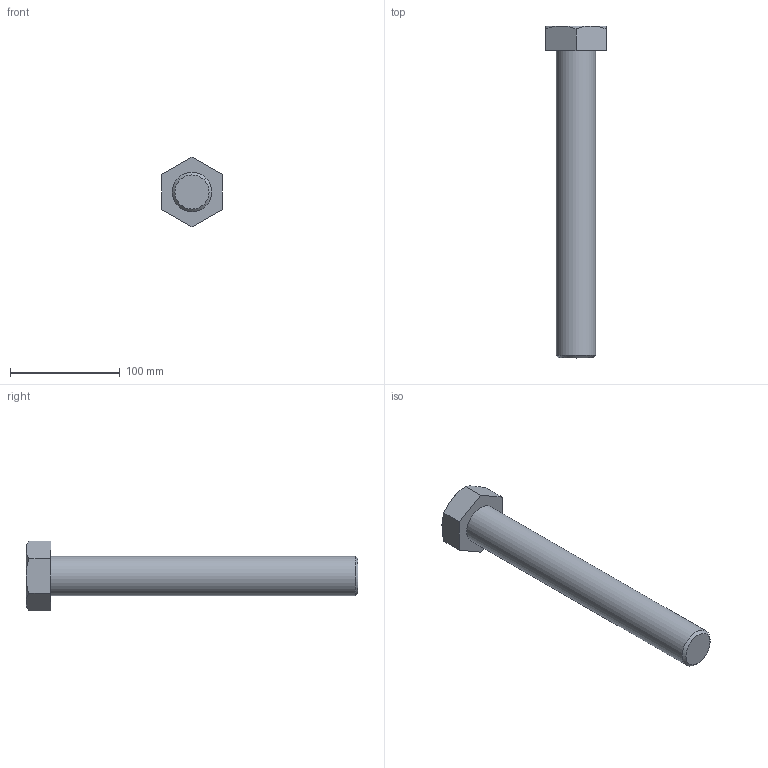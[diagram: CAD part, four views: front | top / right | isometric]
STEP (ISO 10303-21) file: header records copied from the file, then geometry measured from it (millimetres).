
FILE_DESCRIPTION(/* description */ (''),/* implementation_level */ '2;1');
FILE_NAME(/* name */ 'C:\Users\unitec\Documents\Inventor\各種小物\JIS\JIS B 1180 六角ボルト 等級C\hbc36\M36x280.stp',/* time_stamp */ '2015-02-13T14:56:36+09:00',/* author */ ('unitec'),/* organization */ (''),/* preprocessor_version */ 'ST-DEVELOPER v15.2',/* originating_system */ 'Autodesk Inventor 2014',/* authorisation */ '');
FILE_SCHEMA (('AUTOMOTIVE_DESIGN { 1 0 10303 214 3 1 1 }'));
Length unit declared in the file: millimetre
Products named in the file (1): M36x280
Bounding box: 55 x 302.5 x 63.51 mm (x, y, z)
Volume: 343444.5 mm3; surface area: 40900.6 mm2
Topology: 1 solids, 1 shells, 17 faces, 35 edges, 21 vertices
Faces by surface type: plane 9, cone 7, cylinder 1
Full cylindrical faces by diameter (mm): 36 x1
Entity records: 441 total; most frequent: CARTESIAN_POINT 96, ORIENTED_EDGE 66, DIRECTION 66, EDGE_CURVE 33, AXIS2_PLACEMENT_3D 27, VERTEX_POINT 21, EDGE_LOOP 20, ADVANCED_FACE 17
